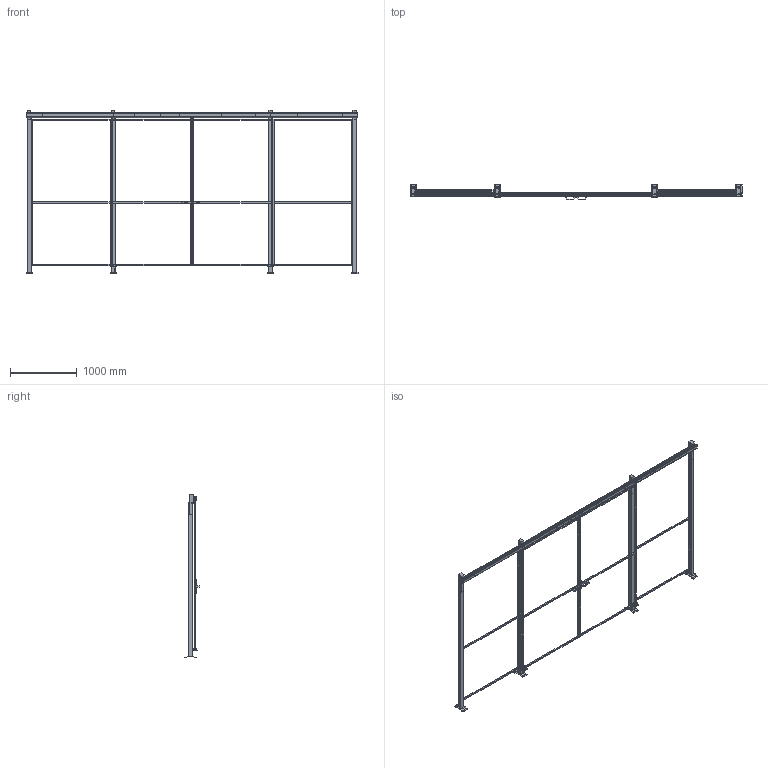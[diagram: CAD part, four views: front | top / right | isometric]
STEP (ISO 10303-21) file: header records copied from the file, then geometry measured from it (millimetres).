
FILE_DESCRIPTION(/* description */ (''),/* implementation_level */ '2;1');
FILE_NAME(/* name */ 'C:\SafeGuarding\ELABORATI\HOR§VED_2025-03-31-14-25-56.stp',/* time_stamp */ '2025-03-31T14:25:59+02:00',/* author */ ('admin'),/* organization */ (''),/* preprocessor_version */ 'ST-DEVELOPER v18.1',/* originating_system */ 'AutoCAD Mechanical',/* authorisation */ '');
FILE_SCHEMA (('AUTOMOTIVE_DESIGN { 1 0 10303 214 3 1 1 }'));
Length unit declared in the file: millimetre
Products named in the file (3): Product; R_VFPA.REPE20.12002200; P_VFMA.V260SDU.2320
Assembly tree (8 placements, depth 2):
  Product
    R_VFPA.REPE20.12002200  x4
    P_VFMA.V260SDU.2320  x4
Bounding box: 4980 x 235.91 x 2454 mm (x, y, z)
Volume: 62301952.6 mm3; surface area: 9488751.7 mm2
Topology: 58 solids, 80 shells, 694 faces, 2328 edges, 2364 vertices
Faces by surface type: plane 638, cylinder 56
Full cylindrical faces by diameter (mm): 11 x16, 12 x4, 14 x4, 15 x8, 40 x8
Entity records: 17907 total; most frequent: CARTESIAN_POINT 3745, ORIENTED_EDGE 2724, DIRECTION 2670, EDGE_CURVE 1460, LINE 1300, VECTOR 1300, VERTEX_POINT 1056, AXIS2_PLACEMENT_3D 685
